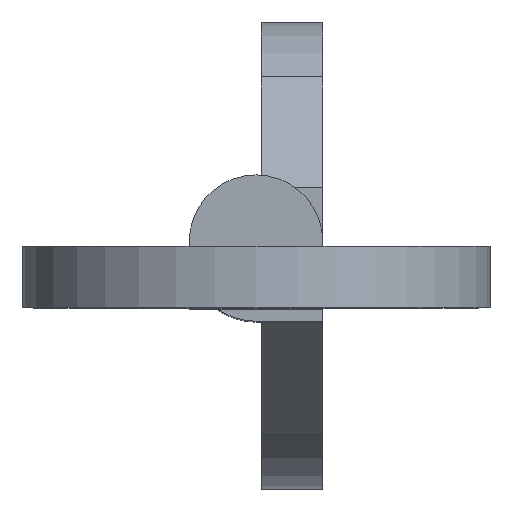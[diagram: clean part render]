
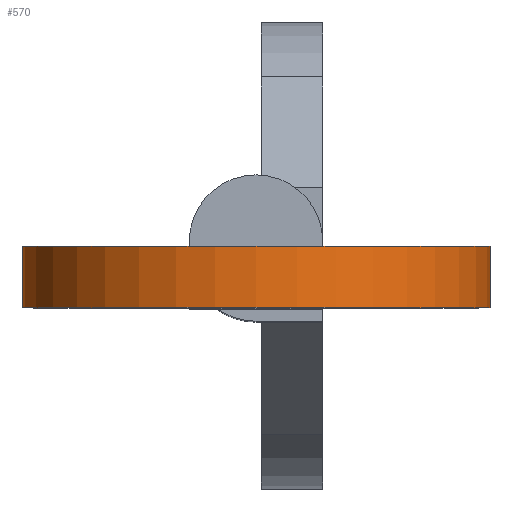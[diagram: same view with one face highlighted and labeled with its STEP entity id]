
A CAD part, top view. The second image highlights one B-rep face of the part: STEP entity #570.
In plain terms, the highlighted cylindrical face has radius 4.19 mm (diameter 8.38 mm), a partial arc.
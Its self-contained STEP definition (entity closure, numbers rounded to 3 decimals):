
#14 = EDGE_LOOP ( 'NONE', ( #691, #723, #123, #700 ) ) ;
#19 = DIRECTION ( 'NONE',  ( 0., -1., 0. ) ) ;
#29 = CARTESIAN_POINT ( 'NONE',  ( 3.202, -0.095, 73.497 ) ) ;
#32 = DIRECTION ( 'NONE',  ( 0., -1., 0. ) ) ;
#121 = VERTEX_POINT ( 'NONE', #158 ) ;
#123 = ORIENTED_EDGE ( 'NONE', *, *, #408, .T. ) ;
#141 = EDGE_CURVE ( 'NONE', #318, #121, #364, .T. ) ;
#158 = CARTESIAN_POINT ( 'NONE',  ( 3.202, -1.195, 73.497 ) ) ;
#198 = FACE_OUTER_BOUND ( 'NONE', #14, .T. ) ;
#225 = AXIS2_PLACEMENT_3D ( 'NONE', #426, #19, #317 ) ;
#251 = DIRECTION ( 'NONE',  ( 0., 0., -1. ) ) ;
#269 = EDGE_CURVE ( 'NONE', #760, #648, #383, .T. ) ;
#317 = DIRECTION ( 'NONE',  ( 0., 0., -1. ) ) ;
#318 = VERTEX_POINT ( 'NONE', #434 ) ;
#364 = LINE ( 'NONE', #29, #587 ) ;
#376 = DIRECTION ( 'NONE',  ( 0., -1., 0. ) ) ;
#383 = LINE ( 'NONE', #717, #534 ) ;
#394 = CARTESIAN_POINT ( 'NONE',  ( 0., -0.095, 76.2 ) ) ;
#408 = EDGE_CURVE ( 'NONE', #318, #760, #569, .T. ) ;
#419 = EDGE_CURVE ( 'NONE', #121, #648, #439, .T. ) ;
#426 = CARTESIAN_POINT ( 'NONE',  ( 0., -0.095, 76.2 ) ) ;
#434 = CARTESIAN_POINT ( 'NONE',  ( 3.202, -0.095, 73.497 ) ) ;
#439 = CIRCLE ( 'NONE', #536, 4.19 ) ;
#469 = DIRECTION ( 'NONE',  ( 0., 0., -1. ) ) ;
#513 = AXIS2_PLACEMENT_3D ( 'NONE', #394, #860, #469 ) ;
#534 = VECTOR ( 'NONE', #376, 1000. ) ;
#536 = AXIS2_PLACEMENT_3D ( 'NONE', #774, #581, #251 ) ;
#551 = CYLINDRICAL_SURFACE ( 'NONE', #513, 4.19 ) ;
#569 = CIRCLE ( 'NONE', #225, 4.19 ) ;
#570 = ADVANCED_FACE ( 'NONE', ( #198 ), #551, .T. ) ;
#581 = DIRECTION ( 'NONE',  ( 0., -1., 0. ) ) ;
#587 = VECTOR ( 'NONE', #32, 1000. ) ;
#648 = VERTEX_POINT ( 'NONE', #870 ) ;
#691 = ORIENTED_EDGE ( 'NONE', *, *, #419, .F. ) ;
#700 = ORIENTED_EDGE ( 'NONE', *, *, #269, .T. ) ;
#717 = CARTESIAN_POINT ( 'NONE',  ( -3.202, -0.095, 73.497 ) ) ;
#723 = ORIENTED_EDGE ( 'NONE', *, *, #141, .F. ) ;
#760 = VERTEX_POINT ( 'NONE', #821 ) ;
#774 = CARTESIAN_POINT ( 'NONE',  ( 0., -1.195, 76.2 ) ) ;
#821 = CARTESIAN_POINT ( 'NONE',  ( -3.202, -0.095, 73.497 ) ) ;
#860 = DIRECTION ( 'NONE',  ( 0., -1., 0. ) ) ;
#870 = CARTESIAN_POINT ( 'NONE',  ( -3.202, -1.195, 73.497 ) ) ;
